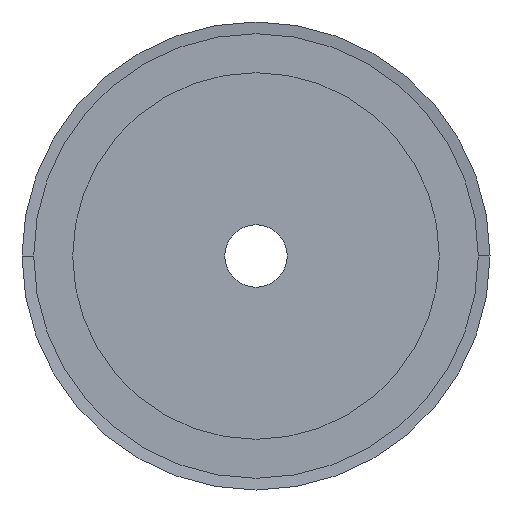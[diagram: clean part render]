
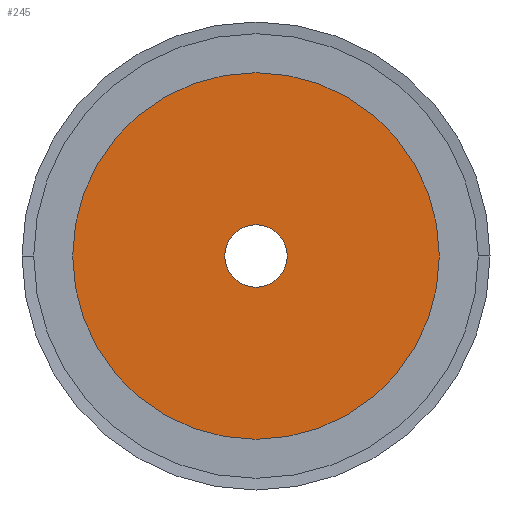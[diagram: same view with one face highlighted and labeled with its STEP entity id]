
A CAD part, left-side view. The second image highlights one B-rep face of the part: STEP entity #245.
In plain terms, the highlighted planar face has unit normal (-1, 0, 0).
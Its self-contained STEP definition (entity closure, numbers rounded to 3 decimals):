
#245 = ADVANCED_FACE( '', ( #593, #594 ), #595, .T. );
#593 = FACE_BOUND( '', #942, .T. );
#594 = FACE_OUTER_BOUND( '', #943, .T. );
#595 = PLANE( '', #944 );
#942 = EDGE_LOOP( '', ( #2419, #2420 ) );
#943 = EDGE_LOOP( '', ( #2421, #2422 ) );
#944 = AXIS2_PLACEMENT_3D( '', #2423, #2424, #2425 );
#2419 = ORIENTED_EDGE( '', *, *, #2904, .F. );
#2420 = ORIENTED_EDGE( '', *, *, #2441, .F. );
#2421 = ORIENTED_EDGE( '', *, *, #2429, .T. );
#2422 = ORIENTED_EDGE( '', *, *, #2909, .T. );
#2423 = CARTESIAN_POINT( '', ( 0., 13.75, 0. ) );
#2424 = DIRECTION( '', ( -1., 0., 0. ) );
#2425 = DIRECTION( '', ( 0., 1., 0. ) );
#2429 = EDGE_CURVE( '', #2911, #2915, #2917, .T. );
#2441 = EDGE_CURVE( '', #2939, #2935, #2941, .T. );
#2904 = EDGE_CURVE( '', #2935, #2939, #3708, .T. );
#2909 = EDGE_CURVE( '', #2915, #2911, #3713, .T. );
#2911 = VERTEX_POINT( '', #3715 );
#2915 = VERTEX_POINT( '', #3720 );
#2917 = CIRCLE( '', #3723, 23.5 );
#2935 = VERTEX_POINT( '', #3745 );
#2939 = VERTEX_POINT( '', #3750 );
#2941 = CIRCLE( '', #3753, 4. );
#3708 = CIRCLE( '', #4784, 4. );
#3713 = CIRCLE( '', #4789, 23.5 );
#3715 = CARTESIAN_POINT( '', ( 0., 23.5, 0. ) );
#3720 = CARTESIAN_POINT( '', ( 0., -23.5, 0. ) );
#3723 = AXIS2_PLACEMENT_3D( '', #4795, #4796, #4797 );
#3745 = CARTESIAN_POINT( '', ( 0., 4., 0. ) );
#3750 = CARTESIAN_POINT( '', ( 0., -4., 0. ) );
#3753 = AXIS2_PLACEMENT_3D( '', #4819, #4820, #4821 );
#4784 = AXIS2_PLACEMENT_3D( '', #5680, #5681, #5682 );
#4789 = AXIS2_PLACEMENT_3D( '', #5695, #5696, #5697 );
#4795 = CARTESIAN_POINT( '', ( 0., 0., 0. ) );
#4796 = DIRECTION( '', ( -1., 0., 0. ) );
#4797 = DIRECTION( '', ( 0., 1., 0. ) );
#4819 = CARTESIAN_POINT( '', ( 0., 0., 0. ) );
#4820 = DIRECTION( '', ( -1., 0., 0. ) );
#4821 = DIRECTION( '', ( 0., 1., 0. ) );
#5680 = CARTESIAN_POINT( '', ( 0., 0., 0. ) );
#5681 = DIRECTION( '', ( -1., 0., 0. ) );
#5682 = DIRECTION( '', ( 0., 1., 0. ) );
#5695 = CARTESIAN_POINT( '', ( 0., 0., 0. ) );
#5696 = DIRECTION( '', ( -1., 0., 0. ) );
#5697 = DIRECTION( '', ( 0., 1., 0. ) );
